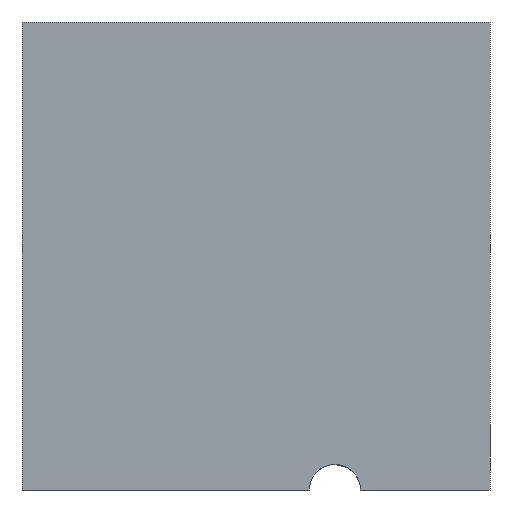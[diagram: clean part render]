
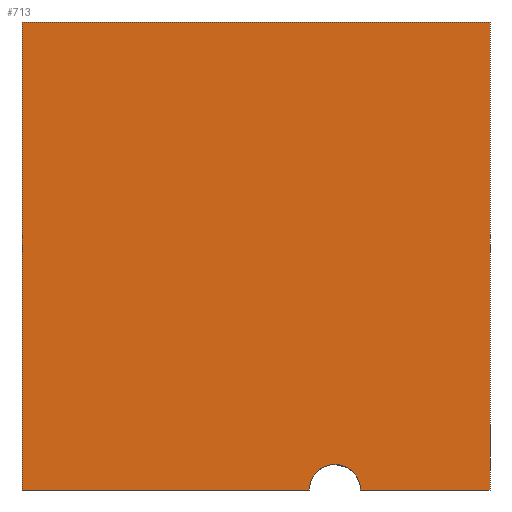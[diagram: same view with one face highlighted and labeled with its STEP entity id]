
A CAD part, left-side view. The second image highlights one B-rep face of the part: STEP entity #713.
In plain terms, the highlighted planar face has unit normal (-1, 0, 0).
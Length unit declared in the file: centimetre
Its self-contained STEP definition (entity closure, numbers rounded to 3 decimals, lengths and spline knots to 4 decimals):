
#1 = VERTEX_POINT ( 'NONE', #97 ) ;
#2 = VERTEX_POINT ( 'NONE', #630 ) ;
#32 = LINE ( 'NONE', #107, #637 ) ;
#45 = CARTESIAN_POINT ( 'NONE',  ( 0., 1000., 0. ) ) ;
#57 = VECTOR ( 'NONE', #986, 100. ) ;
#64 = LINE ( 'NONE', #294, #57 ) ;
#89 = CARTESIAN_POINT ( 'NONE',  ( 0., 0., 1000. ) ) ;
#97 = CARTESIAN_POINT ( 'NONE',  ( 0., 0., 0. ) ) ;
#107 = CARTESIAN_POINT ( 'NONE',  ( 0., 1000., 1000. ) ) ;
#120 = DIRECTION ( 'NONE',  ( -1., 0., 0. ) ) ;
#130 = DIRECTION ( 'NONE',  ( 0., -1., 0. ) ) ;
#174 = EDGE_CURVE ( 'NONE', #976, #1, #463, .T. ) ;
#192 = EDGE_CURVE ( 'NONE', #385, #1, #309, .T. ) ;
#208 = CARTESIAN_POINT ( 'NONE',  ( 0., 385.8014, 0. ) ) ;
#266 = VECTOR ( 'NONE', #692, 100. ) ;
#294 = CARTESIAN_POINT ( 'NONE',  ( 0., 1000., 1000. ) ) ;
#297 = EDGE_CURVE ( 'NONE', #2, #979, #656, .T. ) ;
#309 = LINE ( 'NONE', #89, #266 ) ;
#335 = VERTEX_POINT ( 'NONE', #808 ) ;
#336 = DIRECTION ( 'NONE',  ( 0., -1., 0. ) ) ;
#347 = VECTOR ( 'NONE', #130, 100. ) ;
#365 = ORIENTED_EDGE ( 'NONE', *, *, #174, .T. ) ;
#385 = VERTEX_POINT ( 'NONE', #537 ) ;
#392 = EDGE_CURVE ( 'NONE', #335, #934, #64, .T. ) ;
#428 = EDGE_CURVE ( 'NONE', #934, #979, #677, .T. ) ;
#453 = AXIS2_PLACEMENT_3D ( 'NONE', #924, #864, #838 ) ;
#463 = LINE ( 'NONE', #942, #712 ) ;
#498 = CARTESIAN_POINT ( 'NONE',  ( 0., 276.8036, 0. ) ) ;
#513 = CARTESIAN_POINT ( 'NONE',  ( 0., 1000., 0. ) ) ;
#527 = EDGE_LOOP ( 'NONE', ( #767, #556, #547, #365, #585, #921, #725 ) ) ;
#537 = CARTESIAN_POINT ( 'NONE',  ( 0., 0., 1000. ) ) ;
#547 = ORIENTED_EDGE ( 'NONE', *, *, #987, .F. ) ;
#556 = ORIENTED_EDGE ( 'NONE', *, *, #297, .F. ) ;
#572 = AXIS2_PLACEMENT_3D ( 'NONE', #820, #120, #665 ) ;
#585 = ORIENTED_EDGE ( 'NONE', *, *, #192, .F. ) ;
#604 = FACE_OUTER_BOUND ( 'NONE', #527, .T. ) ;
#630 = CARTESIAN_POINT ( 'NONE',  ( 0., 331.3025, 54.4989 ) ) ;
#637 = VECTOR ( 'NONE', #336, 100. ) ;
#656 = CIRCLE ( 'NONE', #726, 54.4989 ) ;
#665 = DIRECTION ( 'NONE',  ( 0., 0., 1. ) ) ;
#677 = LINE ( 'NONE', #513, #347 ) ;
#692 = DIRECTION ( 'NONE',  ( 0., 0., -1. ) ) ;
#712 = VECTOR ( 'NONE', #781, 100. ) ;
#713 = ADVANCED_FACE ( 'NONE', ( #604 ), #931, .F. ) ;
#725 = ORIENTED_EDGE ( 'NONE', *, *, #392, .T. ) ;
#726 = AXIS2_PLACEMENT_3D ( 'NONE', #823, #745, #800 ) ;
#745 = DIRECTION ( 'NONE',  ( -1., 0., 0. ) ) ;
#767 = ORIENTED_EDGE ( 'NONE', *, *, #428, .T. ) ;
#781 = DIRECTION ( 'NONE',  ( 0., -1., 0. ) ) ;
#787 = CIRCLE ( 'NONE', #572, 54.4989 ) ;
#800 = DIRECTION ( 'NONE',  ( 0., 0., 1. ) ) ;
#808 = CARTESIAN_POINT ( 'NONE',  ( 0., 1000., 1000. ) ) ;
#820 = CARTESIAN_POINT ( 'NONE',  ( 0., 331.3025, 0. ) ) ;
#823 = CARTESIAN_POINT ( 'NONE',  ( 0., 331.3025, 0. ) ) ;
#838 = DIRECTION ( 'NONE',  ( 0., 0., -1. ) ) ;
#841 = EDGE_CURVE ( 'NONE', #335, #385, #32, .T. ) ;
#864 = DIRECTION ( 'NONE',  ( 1., 0., 0. ) ) ;
#921 = ORIENTED_EDGE ( 'NONE', *, *, #841, .F. ) ;
#924 = CARTESIAN_POINT ( 'NONE',  ( 0., 1000., 1000. ) ) ;
#931 = PLANE ( 'NONE',  #453 ) ;
#934 = VERTEX_POINT ( 'NONE', #45 ) ;
#942 = CARTESIAN_POINT ( 'NONE',  ( 0., 1000., 0. ) ) ;
#976 = VERTEX_POINT ( 'NONE', #498 ) ;
#979 = VERTEX_POINT ( 'NONE', #208 ) ;
#986 = DIRECTION ( 'NONE',  ( 0., 0., -1. ) ) ;
#987 = EDGE_CURVE ( 'NONE', #976, #2, #787, .T. ) ;
